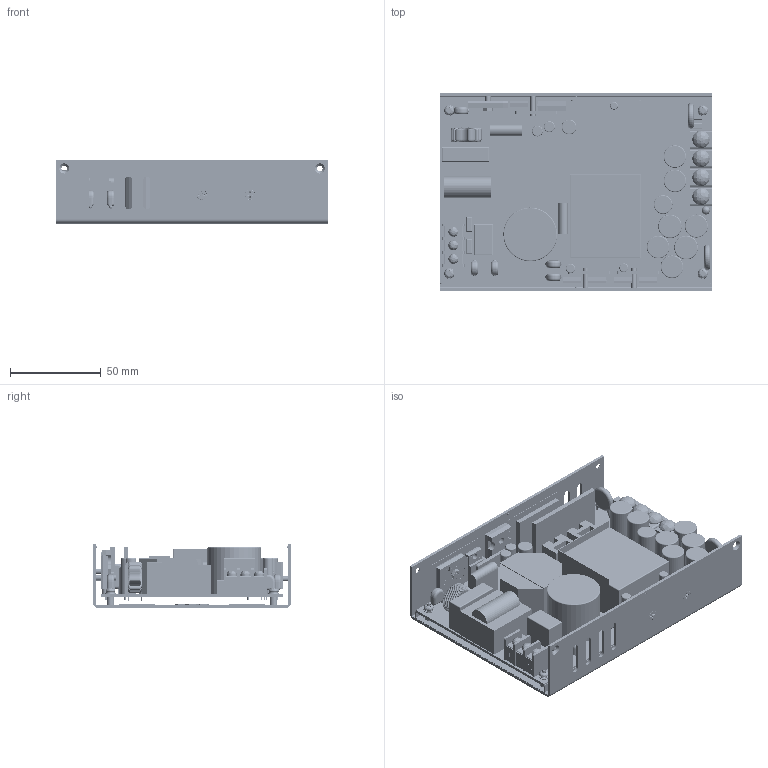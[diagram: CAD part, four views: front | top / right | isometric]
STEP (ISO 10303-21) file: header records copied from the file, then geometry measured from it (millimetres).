
FILE_DESCRIPTION((''),'2;1');
FILE_NAME('240U_ASM_ASM_ASM','2016-01-26T',('arch'),(''),'PRO/ENGINEER BY PARAMETRIC TECHNOLOGY CORPORATION, 2008380','PRO/ENGINEER BY PARAMETRIC TECHNOLOGY CORPORATION, 2008380','');
FILE_SCHEMA(('CONFIG_CONTROL_DESIGN'));
Length unit declared in the file: millimetre
Products named in the file (61): PCB-4084; INLET_9_MM_8; INLET_9_MM_9; INLET_9_MM_10; INLET_-_IN_ASM_ASM_ASM_ASM; INLET_-_OUT_ASM_ASM_ASM_ASM; VR; MANIFOLD_SOLID_BREP_82914; MANIFOLD_SOLID_BREP_105888; L1_ASM_ASM_ASM_ASM; FSF10A60_1; FSF10A60_2; FSF10A60_3; FSF10A60_4; SBL6040PT_1; FSF10A60_5; D1_1; LED; CY6; Y_--_C; PCB-4045_ASM_ASM_ASM_ASM; MYLAR_-_CASE; MANIFOLD_SOLID_BREP_157444; MANIFOLD_SOLID_BREP_157590; MANIFOLD_SOLID_BREP_157864; SCREW_CH_W__M3_8MM_ASM_ASM_ASM_ASM; SILICON_-_BD1_D4; SILICON_-_Q11-14; M3; HEATSINK_-_L24_W8_MM; MYLAR_-_T1; ASM0001_ASM_ASM_ASM_ASM; PRT0010; PRT0011; PRT0012; PRT0013; PRT0014; PRT0015; PRT0016; PRT0017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
Assembly tree (71 placements, depth 8):
  240U_ASM_ASM_ASM
    240U_ASM_ASM_ASM_ASM
      ASM0001_ASM_ASM
        ASSEMBLY_-_240U_ASM_ASM_ASM_ASM
          ASM0001_ASM_ASM_ASM_ASM
            PCB-4045_ASM_ASM_ASM_ASM
              PCB-4084
              INLET_-_IN_ASM_ASM_ASM_ASM
                INLET_9_MM_8
                INLET_9_MM_9
                INLET_9_MM_10
              INLET_-_OUT_ASM_ASM_ASM_ASM
              VR
              L1_ASM_ASM_ASM_ASM
                MANIFOLD_SOLID_BREP_82914
                MANIFOLD_SOLID_BREP_105888
              FSF10A60_1
              FSF10A60_2
              FSF10A60_3
              FSF10A60_4
              SBL6040PT_1
              FSF10A60_5
              D1_1
              LED
              CY6  x2
              Y_--_C  x5
            MYLAR_-_CASE
            SCREW_CH_W__M3_8MM_ASM_ASM_ASM_ASM  x4
              MANIFOLD_SOLID_BREP_157444
              MANIFOLD_SOLID_BREP_157590
              MANIFOLD_SOLID_BREP_157864
            SILICON_-_BD1_D4
            SILICON_-_Q11-14
            M3
            HEATSINK_-_L24_W8_MM
            MYLAR_-_T1
          ASM0002_ASM_ASM_ASM_ASM
            ASM0003_ASM_ASM_ASM_ASM
              PRT0010
              PRT0011
              PRT0012
              PRT0013
              PRT0014
              PRT0015
              PRT0016
              PRT0017
              PRT0018
              PRT0019
              PRT0020
              PRT0021
        SCREW_PH_M3_14MM
        PRT0002
        PRT0003
        PRT0004
        PRT0005
      M3-10
    ASM0003_ASM  x4
      ASM0004_ASM
        ASM0002_ASM_ASM
          PRT0007
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Bounding box: 150 x 109.2 x 35 mm (x, y, z)
Volume: 223909.8 mm3; surface area: 180729 mm2
Topology: 66 solids, 66 shells, 5559 faces, 13998 edges, 8710 vertices
Faces by surface type: cylinder 1679, plane 1630, torus 1468, extrusion 544, cone 136, bspline 100, sphere 2
Entity records: 165682 total; most frequent: CARTESIAN_POINT 43596, DIRECTION 25495, ORIENTED_EDGE 25288, EDGE_CURVE 12644, AXIS2_PLACEMENT_3D 9939, VERTEX_POINT 7842, VECTOR 5617, EDGE_LOOP 5434
